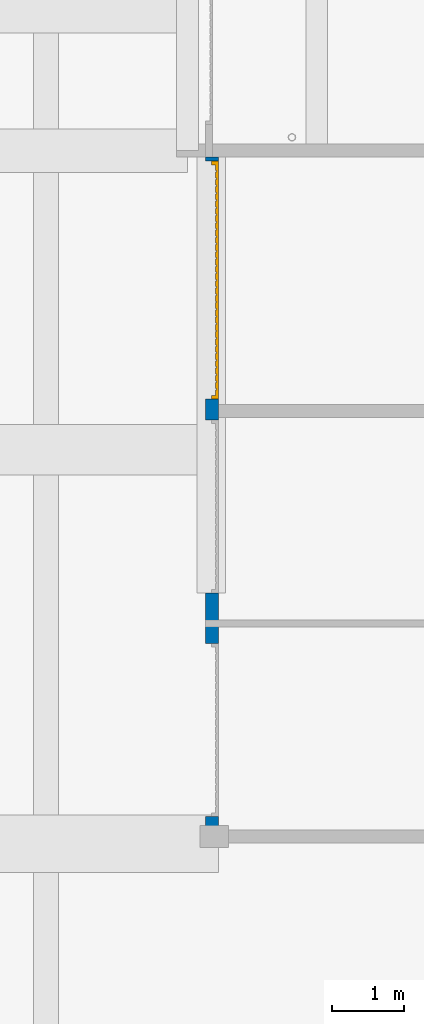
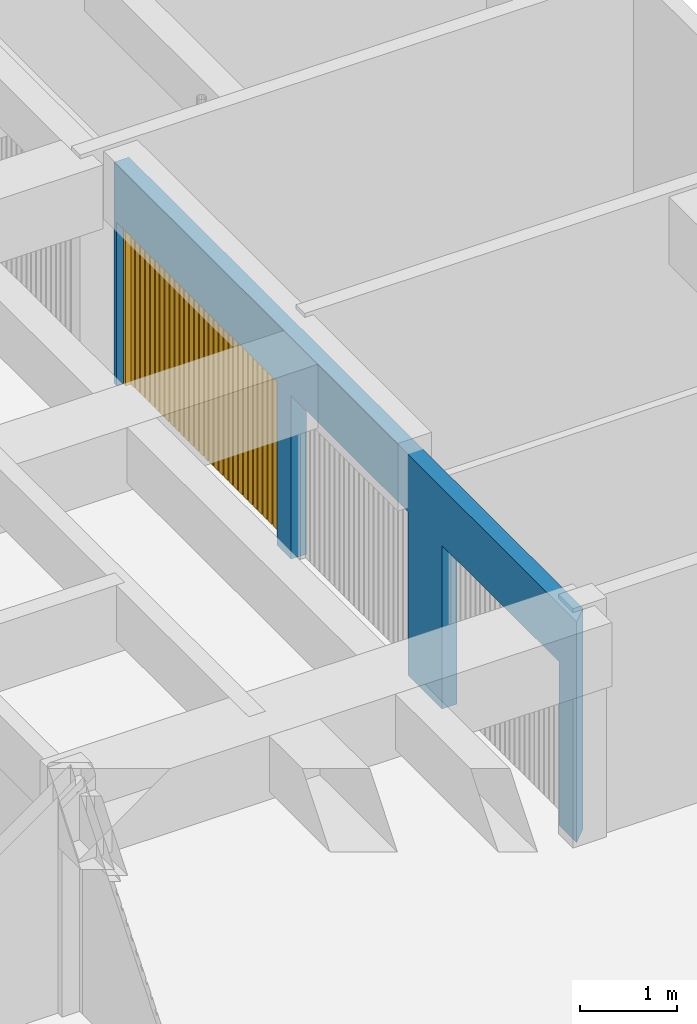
# One storey, part 7 of 41: 1 door, 1 wall, 3 openings.
"""IFC2X3 building model written with IfcOpenShell, lengths in millimetres."""

from ifc_helpers import new_model, entity, si_unit, converted_unit, derived_unit, money_unit, direction, frame, origin_with_axes, origin_2d_with_axis, place, context, subcontext, project, spatial, polyline, rectangle, outline, extrude, faceted_brep, source, transform, mapped, material, layer, layer_set, layer_usage, type_object, element, fill, save


model = new_model("IFC2X3")

# Units and contexts
model_context = context("Model", 3, precision=0.01, world=origin_with_axes(), true_north=direction((0.0, 1.0)))
body_context = subcontext(model_context, "Body", "Model", "MODEL_VIEW")
ifc_project = project(units=[si_unit("LENGTHUNIT", "METRE", prefix="MILLI"), si_unit("AREAUNIT", "SQUARE_METRE"), si_unit("VOLUMEUNIT", "CUBIC_METRE"), converted_unit("PLANEANGLEUNIT", "DEGREE", entity("IfcPlaneAngleMeasure", 0.0174532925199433), si_unit("PLANEANGLEUNIT", "RADIAN"), dimensions=[0, 0, 0, 0, 0, 0, 0]), money_unit("USD"), converted_unit("TIMEUNIT", "Year", entity("IfcTimeMeasure", 31557600.0), si_unit("TIMEUNIT", "SECOND"), dimensions=[0, 0, 1, 0, 0, 0, 0]), si_unit("MASSUNIT", "GRAM", prefix="KILO"), si_unit("THERMODYNAMICTEMPERATUREUNIT", "DEGREE_CELSIUS"), si_unit("LUMINOUSINTENSITYUNIT", "LUMEN"), si_unit("ENERGYUNIT", "JOULE", prefix="MEGA"), derived_unit("THERMALCONDUCTANCEUNIT", [(si_unit("POWERUNIT", "WATT"), 1), (si_unit("LENGTHUNIT", "METRE"), -1), (si_unit("THERMODYNAMICTEMPERATUREUNIT", "KELVIN"), -1)]), derived_unit("SPECIFICHEATCAPACITYUNIT", [(si_unit("ENERGYUNIT", "JOULE"), 1), (si_unit("MASSUNIT", "GRAM", prefix="KILO"), -1), (si_unit("THERMODYNAMICTEMPERATUREUNIT", "KELVIN"), -1)]), derived_unit("MASSDENSITYUNIT", [(si_unit("MASSUNIT", "GRAM", prefix="KILO"), 1), (si_unit("VOLUMEUNIT", "CUBIC_METRE"), -1)])], contexts=[model_context])

# Site, building, storey
site_placement = place(None, origin_with_axes())
site = spatial("IfcSite", under=ifc_project, at=site_placement, Name="Site", CompositionType="ELEMENT")
building_placement = place(site_placement, origin_with_axes())
building = spatial("IfcBuilding", under=site, at=building_placement, Name="Bâtiment", CompositionType="ELEMENT")
storey_placement = place(building_placement, origin_with_axes())
storey = spatial("IfcBuildingStorey", under=building, at=storey_placement, Name="sousol", CompositionType="ELEMENT", Elevation=0.0)

# Wall, openings, door
ifc_material = material(Name="Parpaing 314940890")
ifc_layer = layer(ifc_material, 180.0, ventilated="UNKNOWN")
ifc_layer_set = layer_set([ifc_layer], Name="Beton  18 0170347028")
ifc_layer_usage = layer_usage(ifc_layer_set, "AXIS2", "POSITIVE", 0.0)
wall_type = type_object("IfcWallType", Name="Beton  18 0170347028 180", PredefinedType="NOTDEFINED")
wall_placement = place(storey_placement, frame((2228014.233343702, -637233.3438947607, 0.0), z_axis=(0.0, 0.0, 1.0), x_axis=(-5.66308576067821e-10, -1.0, 0.0)))
wall = element("IfcWallStandardCase", 1, at=wall_placement, inside=storey, type_object=wall_type, material=ifc_layer_usage, Name="Mur-133", context=body_context, shape_type="SweptSolid", body=[
    extrude(outline(polyline([(180.0000000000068, -1.13686837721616e-10), (9685.41781726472, 0.0), (9505.417817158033, 179.99999999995), (179.9999998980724, 179.9999999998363), (180.0000000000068, -1.13686837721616e-10)])), origin_with_axes(), (0.0, 0.0, 1.0), 2769.999999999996),
])
opening_1_placement = place(wall_placement, frame((1885.871553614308, -2.273736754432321e-10, 0.0), z_axis=(0.0, 0.0, 1.0), x_axis=(1.0, 0.0, 0.0)))
opening_1 = element("IfcOpeningElement", 2, at=opening_1_placement, cuts=wall, Name="Por-296", context=body_context, shape_type="SweptSolid", body=[
    extrude(rectangle(XDim=3300.000000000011, YDim=2050.0, at=origin_2d_with_axis()), frame((-1.01934460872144e-07, 180.0000010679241, 1025.0), z_axis=(5.663083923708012e-10, -1.0, 0.0), x_axis=(1.0, 5.663083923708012e-10, 0.0)), (0.0, 0.0, -1.0), 180.0),
    extrude(rectangle(XDim=3300.000000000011, YDim=2050.0, at=origin_2d_with_axis()), frame((-1.01934460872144e-07, 180.0000010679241, 1025.0), z_axis=(-5.663083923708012e-10, 1.0, 0.0), x_axis=(1.0, 5.663083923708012e-10, 0.0)), (0.0, 0.0, -1.0), 180.0),
])
opening_2_placement = place(wall_placement, frame((8118.916970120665, -3.410605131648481e-10, 0.0), z_axis=(0.0, 0.0, 1.0), x_axis=(1.0, 0.0, 0.0)))
element("IfcOpeningElement", 3, at=opening_2_placement, cuts=wall, Name="Por-296", context=body_context, shape_type="SweptSolid", body=[
    extrude(rectangle(XDim=2400.000000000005, YDim=2050.0, at=origin_2d_with_axis()), frame((-1.01934460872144e-07, 180.0000045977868, 1025.0), z_axis=(5.663083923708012e-10, -1.0, 0.0), x_axis=(1.0, 5.663083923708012e-10, 0.0)), (0.0, 0.0, -1.0), 180.0),
    extrude(rectangle(XDim=2400.000000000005, YDim=2050.0, at=origin_2d_with_axis()), frame((-1.01934460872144e-07, 180.0000045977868, 1025.0), z_axis=(-5.663083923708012e-10, 1.0, 0.0), x_axis=(1.0, 5.663083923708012e-10, 0.0)), (0.0, 0.0, -1.0), 180.0),
])
opening_3_placement = place(wall_placement, frame((5021.981643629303, -2.273736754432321e-10, 0.0), z_axis=(0.0, 0.0, 1.0), x_axis=(1.0, 0.0, 0.0)))
element("IfcOpeningElement", 4, at=opening_3_placement, cuts=wall, Name="Por-296", context=body_context, shape_type="SweptSolid", body=[
    extrude(rectangle(XDim=2400.000000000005, YDim=2050.0, at=origin_2d_with_axis()), frame((-1.01934460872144e-07, 180.0000028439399, 1025.0), z_axis=(5.663083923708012e-10, -1.0, 0.0), x_axis=(1.0, 5.663083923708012e-10, 0.0)), (0.0, 0.0, -1.0), 180.0),
    extrude(rectangle(XDim=2400.000000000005, YDim=2050.0, at=origin_2d_with_axis()), frame((-1.01934460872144e-07, 180.0000028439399, 1025.0), z_axis=(-5.663083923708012e-10, 1.0, 0.0), x_axis=(1.0, 5.663083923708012e-10, 0.0)), (0.0, 0.0, -1.0), 180.0),
])
door_style = type_object("IfcDoorStyle", Name="P_garage 1", ConstructionType="NOTDEFINED", OperationType="NOTDEFINED", ParameterTakesPrecedence=False, Sizeable=False)
shared_shape = source(origin_with_axes(), body_context, "Body", "Brep", [
    faceted_brep([(1650.0, 0.0, 0.0), (1650.0, -100.0, 0.0), (1600.0, -100.0, 0.0), (1600.0, 0.0, 0.0), (1650.0, 0.0, 2050.0), (1650.0, -100.0, 2050.0), (-1650.0, -100.0, 2050.0), (-1650.0, -100.0, 0.0), (-1600.0, -100.0, 0.0), (-1600.0, -100.0, 2000.0), (1600.0, -100.0, 2000.0), (1600.0, 0.0, 2000.0), (-1600.0, 0.0, 2000.0), (-1600.0, 0.0, 0.0), (-1650.0, 0.0, 0.0), (-1650.0, 0.0, 2050.0)], [[[0, 1, 2, 3]], [[4, 5, 1, 0]], [[1, 5, 6, 7, 8, 9, 10, 2]], [[3, 2, 10, 11]], [[0, 3, 11, 12, 13, 14, 15, 4]], [[15, 6, 5, 4]], [[14, 7, 6, 15]], [[13, 8, 7, 14]], [[12, 9, 8, 13]], [[11, 10, 9, 12]]]),
    faceted_brep([(1519.375, -40.0, 0.0), (1519.375, -40.0, 2000.0), (1519.375, -26.66666666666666, 2000.0), (1519.375, -26.66666666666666, 0.0), (1600.0, -40.0, 0.0), (1600.0, -40.0, 2000.0), (1600.0, -26.66666666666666, 2000.0), (1600.0, -26.66666666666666, 0.0)], [[[0, 1, 2, 3]], [[0, 4, 5, 1]], [[1, 5, 6, 2]], [[3, 2, 6, 7]], [[4, 0, 3, 7]], [[5, 4, 7, 6]]]),
    faceted_brep([(1418.75, -40.0, 0.0), (1418.75, -40.0, 2000.0), (1418.75, -26.66666666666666, 2000.0), (1418.75, -26.66666666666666, 0.0), (1499.375, -40.0, 0.0), (1499.375, -40.0, 2000.0), (1499.375, -26.66666666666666, 2000.0), (1499.375, -26.66666666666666, 0.0)], [[[0, 1, 2, 3]], [[0, 4, 5, 1]], [[1, 5, 6, 2]], [[3, 2, 6, 7]], [[4, 0, 3, 7]], [[5, 4, 7, 6]]]),
    faceted_brep([(1318.125, -40.0, 0.0), (1318.125, -40.0, 2000.0), (1318.125, -26.66666666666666, 2000.0), (1318.125, -26.66666666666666, 0.0), (1398.75, -40.0, 0.0), (1398.75, -40.0, 2000.0), (1398.75, -26.66666666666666, 2000.0), (1398.75, -26.66666666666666, 0.0)], [[[0, 1, 2, 3]], [[0, 4, 5, 1]], [[1, 5, 6, 2]], [[3, 2, 6, 7]], [[4, 0, 3, 7]], [[5, 4, 7, 6]]]),
    faceted_brep([(1217.5, -40.0, 0.0), (1217.5, -40.0, 2000.0), (1217.5, -26.66666666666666, 2000.0), (1217.5, -26.66666666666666, 0.0), (1298.125, -40.0, 0.0), (1298.125, -40.0, 2000.0), (1298.125, -26.66666666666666, 2000.0), (1298.125, -26.66666666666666, 0.0)], [[[0, 1, 2, 3]], [[0, 4, 5, 1]], [[1, 5, 6, 2]], [[3, 2, 6, 7]], [[4, 0, 3, 7]], [[5, 4, 7, 6]]]),
    faceted_brep([(1116.875, -40.0, 0.0), (1116.875, -40.0, 2000.0), (1116.875, -26.66666666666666, 2000.0), (1116.875, -26.66666666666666, 0.0), (1197.5, -40.0, 0.0), (1197.5, -40.0, 2000.0), (1197.5, -26.66666666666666, 2000.0), (1197.5, -26.66666666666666, 0.0)], [[[0, 1, 2, 3]], [[0, 4, 5, 1]], [[1, 5, 6, 2]], [[3, 2, 6, 7]], [[4, 0, 3, 7]], [[5, 4, 7, 6]]]),
    faceted_brep([(1016.25, -40.0, 0.0), (1016.25, -40.0, 2000.0), (1016.25, -26.66666666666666, 2000.0), (1016.25, -26.66666666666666, 0.0), (1096.875, -40.0, 0.0), (1096.875, -40.0, 2000.0), (1096.875, -26.66666666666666, 2000.0), (1096.875, -26.66666666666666, 0.0)], [[[0, 1, 2, 3]], [[0, 4, 5, 1]], [[1, 5, 6, 2]], [[3, 2, 6, 7]], [[4, 0, 3, 7]], [[5, 4, 7, 6]]]),
    faceted_brep([(915.625, -40.0, 0.0), (915.625, -40.0, 2000.0), (915.625, -26.66666666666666, 2000.0), (915.625, -26.66666666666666, 0.0), (996.25, -40.0, 0.0), (996.25, -40.0, 2000.0), (996.25, -26.66666666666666, 2000.0), (996.25, -26.66666666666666, 0.0)], [[[0, 1, 2, 3]], [[0, 4, 5, 1]], [[1, 5, 6, 2]], [[3, 2, 6, 7]], [[4, 0, 3, 7]], [[5, 4, 7, 6]]]),
    faceted_brep([(815.0000000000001, -40.0, 0.0), (815.0000000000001, -40.0, 2000.0), (815.0000000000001, -26.66666666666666, 2000.0), (815.0000000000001, -26.66666666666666, 0.0), (895.625, -40.0, 0.0), (895.625, -40.0, 2000.0), (895.625, -26.66666666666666, 2000.0), (895.625, -26.66666666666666, 0.0)], [[[0, 1, 2, 3]], [[0, 4, 5, 1]], [[1, 5, 6, 2]], [[3, 2, 6, 7]], [[4, 0, 3, 7]], [[5, 4, 7, 6]]]),
    faceted_brep([(714.3750000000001, -40.0, 0.0), (714.3750000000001, -40.0, 2000.0), (714.3750000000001, -26.66666666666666, 2000.0), (714.3750000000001, -26.66666666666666, 0.0), (795.0, -40.0, 0.0), (795.0, -40.0, 2000.0), (795.0, -26.66666666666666, 2000.0), (795.0, -26.66666666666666, 0.0)], [[[0, 1, 2, 3]], [[0, 4, 5, 1]], [[1, 5, 6, 2]], [[3, 2, 6, 7]], [[4, 0, 3, 7]], [[5, 4, 7, 6]]]),
    faceted_brep([(613.7500000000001, -40.0, 0.0), (613.7500000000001, -40.0, 2000.0), (613.7500000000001, -26.66666666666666, 2000.0), (613.7500000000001, -26.66666666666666, 0.0), (694.3750000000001, -40.0, 0.0), (694.3750000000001, -40.0, 2000.0), (694.3750000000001, -26.66666666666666, 2000.0), (694.3750000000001, -26.66666666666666, 0.0)], [[[0, 1, 2, 3]], [[0, 4, 5, 1]], [[1, 5, 6, 2]], [[3, 2, 6, 7]], [[4, 0, 3, 7]], [[5, 4, 7, 6]]]),
    faceted_brep([(513.125, -40.0, 0.0), (513.125, -40.0, 2000.0), (513.125, -26.66666666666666, 2000.0), (513.125, -26.66666666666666, 0.0), (593.75, -40.0, 0.0), (593.75, -40.0, 2000.0), (593.75, -26.66666666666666, 2000.0), (593.75, -26.66666666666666, 0.0)], [[[0, 1, 2, 3]], [[0, 4, 5, 1]], [[1, 5, 6, 2]], [[3, 2, 6, 7]], [[4, 0, 3, 7]], [[5, 4, 7, 6]]]),
    faceted_brep([(412.5000000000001, -40.0, 0.0), (412.5000000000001, -40.0, 2000.0), (412.5000000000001, -26.66666666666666, 2000.0), (412.5000000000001, -26.66666666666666, 0.0), (493.1250000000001, -40.0, 0.0), (493.1250000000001, -40.0, 2000.0), (493.1250000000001, -26.66666666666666, 2000.0), (493.1250000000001, -26.66666666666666, 0.0)], [[[0, 1, 2, 3]], [[0, 4, 5, 1]], [[1, 5, 6, 2]], [[3, 2, 6, 7]], [[4, 0, 3, 7]], [[5, 4, 7, 6]]]),
    faceted_brep([(311.8750000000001, -40.0, 0.0), (311.8750000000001, -40.0, 2000.0), (311.8750000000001, -26.66666666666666, 2000.0), (311.8750000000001, -26.66666666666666, 0.0), (392.5000000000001, -40.0, 0.0), (392.5000000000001, -40.0, 2000.0), (392.5000000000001, -26.66666666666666, 2000.0), (392.5000000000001, -26.66666666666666, 0.0)], [[[0, 1, 2, 3]], [[0, 4, 5, 1]], [[1, 5, 6, 2]], [[3, 2, 6, 7]], [[4, 0, 3, 7]], [[5, 4, 7, 6]]]),
    faceted_brep([(211.2500000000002, -40.0, 0.0), (211.2500000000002, -40.0, 2000.0), (211.2500000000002, -26.66666666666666, 2000.0), (211.2500000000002, -26.66666666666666, 0.0), (291.8750000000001, -40.0, 0.0), (291.8750000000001, -40.0, 2000.0), (291.8750000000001, -26.66666666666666, 2000.0), (291.8750000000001, -26.66666666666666, 0.0)], [[[0, 1, 2, 3]], [[0, 4, 5, 1]], [[1, 5, 6, 2]], [[3, 2, 6, 7]], [[4, 0, 3, 7]], [[5, 4, 7, 6]]]),
    faceted_brep([(110.6250000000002, -40.0, 0.0), (110.6250000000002, -40.0, 2000.0), (110.6250000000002, -26.66666666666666, 2000.0), (110.6250000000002, -26.66666666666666, 0.0), (191.2500000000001, -40.0, 0.0), (191.2500000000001, -40.0, 2000.0), (191.2500000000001, -26.66666666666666, 2000.0), (191.2500000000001, -26.66666666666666, 0.0)], [[[0, 1, 2, 3]], [[0, 4, 5, 1]], [[1, 5, 6, 2]], [[3, 2, 6, 7]], [[4, 0, 3, 7]], [[5, 4, 7, 6]]]),
    faceted_brep([(10.00000000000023, -40.0, 0.0), (10.00000000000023, -40.0, 2000.0), (10.00000000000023, -26.66666666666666, 2000.0), (10.00000000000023, -26.66666666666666, 0.0), (90.62500000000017, -40.0, 0.0), (90.62500000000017, -40.0, 2000.0), (90.62500000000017, -26.66666666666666, 2000.0), (90.62500000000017, -26.66666666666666, 0.0)], [[[0, 1, 2, 3]], [[0, 4, 5, 1]], [[1, 5, 6, 2]], [[3, 2, 6, 7]], [[4, 0, 3, 7]], [[5, 4, 7, 6]]]),
    faceted_brep([(-90.62499999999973, -40.0, 0.0), (-90.62499999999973, -40.0, 2000.0), (-90.62499999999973, -26.66666666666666, 2000.0), (-90.62499999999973, -26.66666666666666, 0.0), (-9.999999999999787, -40.0, 0.0), (-9.999999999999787, -40.0, 2000.0), (-9.999999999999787, -26.66666666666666, 2000.0), (-9.999999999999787, -26.66666666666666, 0.0)], [[[0, 1, 2, 3]], [[0, 4, 5, 1]], [[1, 5, 6, 2]], [[3, 2, 6, 7]], [[4, 0, 3, 7]], [[5, 4, 7, 6]]]),
    faceted_brep([(-191.2499999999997, -40.0, 0.0), (-191.2499999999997, -40.0, 2000.0), (-191.2499999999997, -26.66666666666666, 2000.0), (-191.2499999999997, -26.66666666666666, 0.0), (-110.6249999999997, -40.0, 0.0), (-110.6249999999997, -40.0, 2000.0), (-110.6249999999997, -26.66666666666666, 2000.0), (-110.6249999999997, -26.66666666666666, 0.0)], [[[0, 1, 2, 3]], [[0, 4, 5, 1]], [[1, 5, 6, 2]], [[3, 2, 6, 7]], [[4, 0, 3, 7]], [[5, 4, 7, 6]]]),
    faceted_brep([(-291.8749999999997, -40.0, 0.0), (-291.8749999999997, -40.0, 2000.0), (-291.8749999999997, -26.66666666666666, 2000.0), (-291.8749999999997, -26.66666666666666, 0.0), (-211.2499999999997, -40.0, 0.0), (-211.2499999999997, -40.0, 2000.0), (-211.2499999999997, -26.66666666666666, 2000.0), (-211.2499999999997, -26.66666666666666, 0.0)], [[[0, 1, 2, 3]], [[0, 4, 5, 1]], [[1, 5, 6, 2]], [[3, 2, 6, 7]], [[4, 0, 3, 7]], [[5, 4, 7, 6]]]),
    faceted_brep([(-392.4999999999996, -40.0, 0.0), (-392.4999999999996, -40.0, 2000.0), (-392.4999999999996, -26.66666666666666, 2000.0), (-392.4999999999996, -26.66666666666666, 0.0), (-311.8749999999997, -40.0, 0.0), (-311.8749999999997, -40.0, 2000.0), (-311.8749999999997, -26.66666666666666, 2000.0), (-311.8749999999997, -26.66666666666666, 0.0)], [[[0, 1, 2, 3]], [[0, 4, 5, 1]], [[1, 5, 6, 2]], [[3, 2, 6, 7]], [[4, 0, 3, 7]], [[5, 4, 7, 6]]]),
    faceted_brep([(-493.1249999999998, -40.0, 0.0), (-493.1249999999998, -40.0, 2000.0), (-493.1249999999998, -26.66666666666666, 2000.0), (-493.1249999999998, -26.66666666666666, 0.0), (-412.4999999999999, -40.0, 0.0), (-412.4999999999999, -40.0, 2000.0), (-412.4999999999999, -26.66666666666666, 2000.0), (-412.4999999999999, -26.66666666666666, 0.0)], [[[0, 1, 2, 3]], [[0, 4, 5, 1]], [[1, 5, 6, 2]], [[3, 2, 6, 7]], [[4, 0, 3, 7]], [[5, 4, 7, 6]]]),
    faceted_brep([(-593.7499999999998, -40.0, 0.0), (-593.7499999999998, -40.0, 2000.0), (-593.7499999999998, -26.66666666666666, 2000.0), (-593.7499999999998, -26.66666666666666, 0.0), (-513.1249999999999, -40.0, 0.0), (-513.1249999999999, -40.0, 2000.0), (-513.1249999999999, -26.66666666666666, 2000.0), (-513.1249999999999, -26.66666666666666, 0.0)], [[[0, 1, 2, 3]], [[0, 4, 5, 1]], [[1, 5, 6, 2]], [[3, 2, 6, 7]], [[4, 0, 3, 7]], [[5, 4, 7, 6]]]),
    faceted_brep([(-694.3749999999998, -40.0, 0.0), (-694.3749999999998, -40.0, 2000.0), (-694.3749999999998, -26.66666666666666, 2000.0), (-694.3749999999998, -26.66666666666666, 0.0), (-613.7499999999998, -40.0, 0.0), (-613.7499999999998, -40.0, 2000.0), (-613.7499999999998, -26.66666666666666, 2000.0), (-613.7499999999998, -26.66666666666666, 0.0)], [[[0, 1, 2, 3]], [[0, 4, 5, 1]], [[1, 5, 6, 2]], [[3, 2, 6, 7]], [[4, 0, 3, 7]], [[5, 4, 7, 6]]]),
    faceted_brep([(-794.9999999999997, -40.0, 0.0), (-794.9999999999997, -40.0, 2000.0), (-794.9999999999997, -26.66666666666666, 2000.0), (-794.9999999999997, -26.66666666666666, 0.0), (-714.3749999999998, -40.0, 0.0), (-714.3749999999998, -40.0, 2000.0), (-714.3749999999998, -26.66666666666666, 2000.0), (-714.3749999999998, -26.66666666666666, 0.0)], [[[0, 1, 2, 3]], [[0, 4, 5, 1]], [[1, 5, 6, 2]], [[3, 2, 6, 7]], [[4, 0, 3, 7]], [[5, 4, 7, 6]]]),
    faceted_brep([(-895.6249999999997, -40.0, 0.0), (-895.6249999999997, -40.0, 2000.0), (-895.6249999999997, -26.66666666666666, 2000.0), (-895.6249999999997, -26.66666666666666, 0.0), (-814.9999999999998, -40.0, 0.0), (-814.9999999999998, -40.0, 2000.0), (-814.9999999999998, -26.66666666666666, 2000.0), (-814.9999999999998, -26.66666666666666, 0.0)], [[[0, 1, 2, 3]], [[0, 4, 5, 1]], [[1, 5, 6, 2]], [[3, 2, 6, 7]], [[4, 0, 3, 7]], [[5, 4, 7, 6]]]),
    faceted_brep([(-996.2499999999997, -40.0, 0.0), (-996.2499999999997, -40.0, 2000.0), (-996.2499999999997, -26.66666666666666, 2000.0), (-996.2499999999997, -26.66666666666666, 0.0), (-915.6249999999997, -40.0, 0.0), (-915.6249999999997, -40.0, 2000.0), (-915.6249999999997, -26.66666666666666, 2000.0), (-915.6249999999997, -26.66666666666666, 0.0)], [[[0, 1, 2, 3]], [[0, 4, 5, 1]], [[1, 5, 6, 2]], [[3, 2, 6, 7]], [[4, 0, 3, 7]], [[5, 4, 7, 6]]]),
    faceted_brep([(-1096.875, -40.0, 0.0), (-1096.875, -40.0, 2000.0), (-1096.875, -26.66666666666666, 2000.0), (-1096.875, -26.66666666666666, 0.0), (-1016.25, -40.0, 0.0), (-1016.25, -40.0, 2000.0), (-1016.25, -26.66666666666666, 2000.0), (-1016.25, -26.66666666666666, 0.0)], [[[0, 1, 2, 3]], [[0, 4, 5, 1]], [[1, 5, 6, 2]], [[3, 2, 6, 7]], [[4, 0, 3, 7]], [[5, 4, 7, 6]]]),
    faceted_brep([(-1197.5, -40.0, 0.0), (-1197.5, -40.0, 2000.0), (-1197.5, -26.66666666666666, 2000.0), (-1197.5, -26.66666666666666, 0.0), (-1116.875, -40.0, 0.0), (-1116.875, -40.0, 2000.0), (-1116.875, -26.66666666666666, 2000.0), (-1116.875, -26.66666666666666, 0.0)], [[[0, 1, 2, 3]], [[0, 4, 5, 1]], [[1, 5, 6, 2]], [[3, 2, 6, 7]], [[4, 0, 3, 7]], [[5, 4, 7, 6]]]),
    faceted_brep([(-1298.125, -40.0, 0.0), (-1298.125, -40.0, 2000.0), (-1298.125, -26.66666666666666, 2000.0), (-1298.125, -26.66666666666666, 0.0), (-1217.5, -40.0, 0.0), (-1217.5, -40.0, 2000.0), (-1217.5, -26.66666666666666, 2000.0), (-1217.5, -26.66666666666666, 0.0)], [[[0, 1, 2, 3]], [[0, 4, 5, 1]], [[1, 5, 6, 2]], [[3, 2, 6, 7]], [[4, 0, 3, 7]], [[5, 4, 7, 6]]]),
    faceted_brep([(-1398.75, -40.0, 0.0), (-1398.75, -40.0, 2000.0), (-1398.75, -26.66666666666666, 2000.0), (-1398.75, -26.66666666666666, 0.0), (-1318.125, -40.0, 0.0), (-1318.125, -40.0, 2000.0), (-1318.125, -26.66666666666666, 2000.0), (-1318.125, -26.66666666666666, 0.0)], [[[0, 1, 2, 3]], [[0, 4, 5, 1]], [[1, 5, 6, 2]], [[3, 2, 6, 7]], [[4, 0, 3, 7]], [[5, 4, 7, 6]]]),
    faceted_brep([(-1499.375, -40.0, 0.0), (-1499.375, -40.0, 2000.0), (-1499.375, -26.66666666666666, 2000.0), (-1499.375, -26.66666666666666, 0.0), (-1418.75, -40.0, 0.0), (-1418.75, -40.0, 2000.0), (-1418.75, -26.66666666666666, 2000.0), (-1418.75, -26.66666666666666, 0.0)], [[[0, 1, 2, 3]], [[0, 4, 5, 1]], [[1, 5, 6, 2]], [[3, 2, 6, 7]], [[4, 0, 3, 7]], [[5, 4, 7, 6]]]),
    faceted_brep([(-1599.999999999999, -40.0, 0.0), (-1599.999999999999, -40.0, 2000.0), (-1599.999999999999, -26.66666666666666, 2000.0), (-1599.999999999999, -26.66666666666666, 0.0), (-1519.375, -40.0, 0.0), (-1519.375, -40.0, 2000.0), (-1519.375, -26.66666666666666, 2000.0), (-1519.375, -26.66666666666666, 0.0)], [[[0, 1, 2, 3]], [[0, 4, 5, 1]], [[1, 5, 6, 2]], [[3, 2, 6, 7]], [[4, 0, 3, 7]], [[5, 4, 7, 6]]]),
    faceted_brep([(1600.0, -26.66666666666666, 0.0), (-1600.0, -26.66666666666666, 0.0), (-1600.0, 0.0, 0.0), (1600.0, 0.0, 0.0), (1600.0, -26.66666666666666, 2000.0), (-1600.0, -26.66666666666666, 2000.0), (-1600.0, 0.0, 2000.0), (1600.0, 0.0, 2000.0)], [[[0, 1, 2, 3]], [[0, 4, 5, 1]], [[1, 5, 6, 2]], [[3, 2, 6, 7]], [[4, 0, 3, 7]], [[5, 4, 7, 6]]]),
])
door_placement = place(opening_1_placement, frame((-1649.999999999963, 0.0, 0.0), z_axis=(0.0, 0.0, 1.0), x_axis=(1.0, 0.0, 0.0)))
door = element("IfcDoor", 5, at=door_placement, inside=storey, type_object=door_style, Name="Por-296", OverallHeight=2050.0, OverallWidth=3300.0, context=body_context, shape_type="MappedRepresentation", body=[
    mapped(shared_shape, transform((1649.999999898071, 180.0000010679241, 0.0))),
])
fill(opening_1, door)

save(model, "model.ifc")
